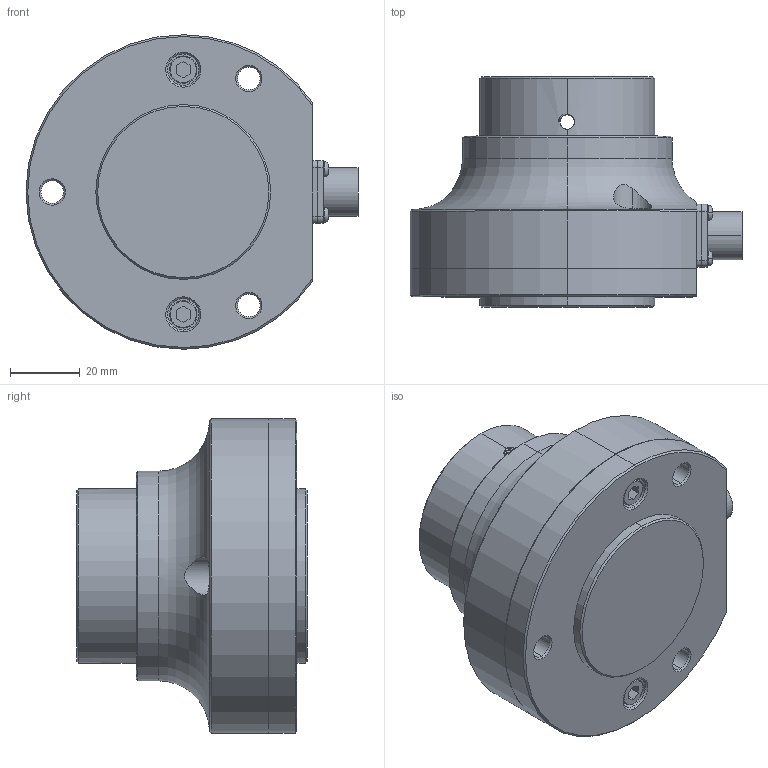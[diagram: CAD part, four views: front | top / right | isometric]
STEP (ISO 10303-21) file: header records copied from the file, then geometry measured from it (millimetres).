
FILE_DESCRIPTION (( 'STEP AP203' ), '1' );
FILE_NAME ('STAF.STEP', '2024-12-10T13:55:21', ( '' ), ( '' ), 'SwSTEP 2.0', 'SolidWorks 2019', '' );
FILE_SCHEMA (( 'CONFIG_CONTROL_DESIGN' ));
Length unit declared in the file: millimetre
Products named in the file (1): STAF
Bounding box: 95 x 66 x 90 mm (x, y, z)
Volume: 225965.5 mm3; surface area: 34545 mm2
Topology: 1 solids, 1 shells, 289 faces, 721 edges, 464 vertices
Faces by surface type: plane 131, cylinder 110, cone 28, torus 14, bspline 6
Entity records: 24321 total; most frequent: CARTESIAN_POINT 17486, ORIENTED_EDGE 1442, DIRECTION 1362, EDGE_CURVE 721, AXIS2_PLACEMENT_3D 505, VERTEX_POINT 464, VECTOR 352, LINE 352
